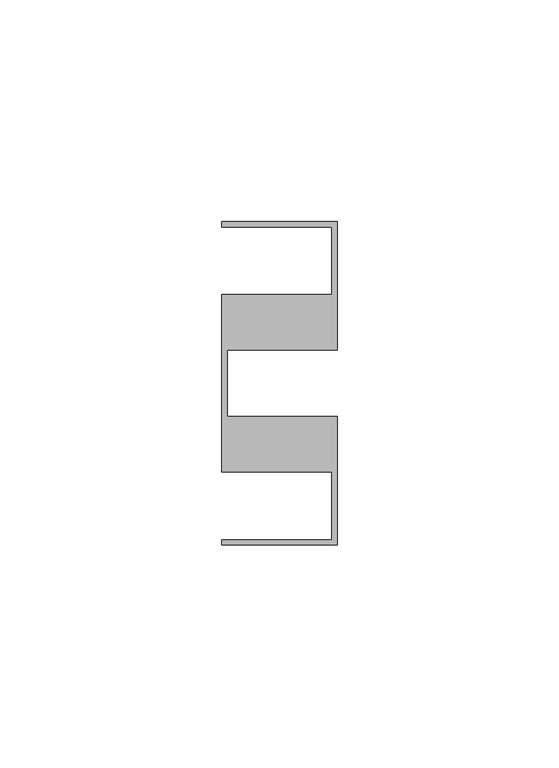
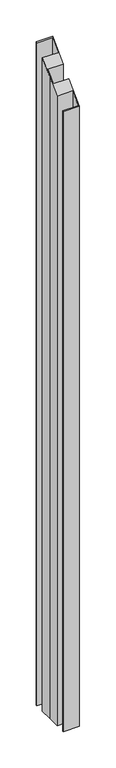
"""IFC4 building model written with IfcOpenShell, lengths in millimetres: member geometry, Прямоугольный импост : 10-AMG-2-Профиль 26Х73 Низ Л."""

from ifc_helpers import new_model, si_unit, origin, place, context, project, spatial, faceted_brep, source, transform, mapped, element, save


def member_4ba3030a(model_context):
    return source(origin(), model_context, "Body", "Brep", [
        faceted_brep([(-26.0, 36.5, -1074.0), (0.0, 36.5, -1074.0), (0.0, 7.5116043, -1074.0), (-24.8, 7.5116043, -1074.0), (-24.8, 0.0, -1074.0), (-24.8, -7.5116043, -1074.0), (0.0, -7.5116043, -1074.0), (0.0, -36.5, -1074.0), (-26.0, -36.5, -1074.0), (-26.0, -35.3116043, -1074.0), (-1.2, -35.3116043, -1074.0), (-1.2, -20.0, -1074.0), (-26.0, -20.0, -1074.0), (-26.0, 0.0, -1074.0), (-26.0, 20.0, -1074.0), (-1.2, 20.0, -1074.0), (-1.2, 35.3, -1074.0), (-26.0, 35.3, -1074.0), (-26.0, 35.3, 35.3), (-26.0, 36.5, 36.5), (-1.2, 35.3, 35.3), (-1.2, 20.0, 20.0), (-26.0, 20.0, 20.0), (-26.0, 0.0, 0.0), (-26.0, -20.0, -20.0), (-1.2, -20.0, -20.0), (-1.2, -35.3116043, -35.3116043), (-26.0, -35.3116043, -35.3116043), (-26.0, -36.5, -36.5), (0.0, -36.5, -36.5), (0.0, -7.5116043, -7.5116043), (-24.8, -7.5116043, -7.5116043), (-24.8, 0.0, 0.0), (-24.8, 7.5116043, 7.5116043), (0.0, 7.5116043, 7.5116043), (0.0, 36.5, 36.5)], [[[0, 1, 2, 3, 4, 5, 6, 7, 8, 9, 10, 11, 12, 13, 14, 15, 16, 17]], [[18, 19, 0, 17]], [[20, 18, 17, 16]], [[21, 20, 16, 15]], [[22, 21, 15, 14]], [[23, 22, 14, 13]], [[24, 23, 13, 12]], [[25, 24, 12, 11]], [[26, 25, 11, 10]], [[27, 26, 10, 9]], [[28, 27, 9, 8]], [[29, 28, 8, 7]], [[30, 29, 7, 6]], [[31, 30, 6, 5]], [[32, 31, 5, 4]], [[33, 32, 4, 3]], [[34, 33, 3, 2]], [[35, 34, 2, 1]], [[19, 35, 1, 0]], [[19, 18, 20, 21, 22, 23, 24, 25, 26, 27, 28, 29, 30, 31, 32, 33, 34, 35]]]),
    ])


if __name__ == "__main__":
    model = new_model("IFC4")
    model_context = context("Model", 3, world=origin())
    ifc_project = project(units=[si_unit("LENGTHUNIT", "METRE", prefix="MILLI")], contexts=[model_context])
    site = spatial("IfcSite", under=ifc_project)
    building = spatial("IfcBuilding", under=site)
    placement = place(None, origin())
    member_shape = member_4ba3030a(model_context)
    element("IfcMember", 1, ObjectType="Прямоугольный импост : 10-AMG-2-Профиль 26Х73 Низ Л", at=placement, inside=building, context=model_context, shape_type="MappedRepresentation", body=[
        mapped(member_shape, transform((0.0, 0.0, 0.0), x_axis=(1.0, 0.0, 0.0), y_axis=(0.0, 1.0, 0.0), z_axis=(0.0, 0.0, 1.0))),
    ])
    save(model, "model.ifc")
